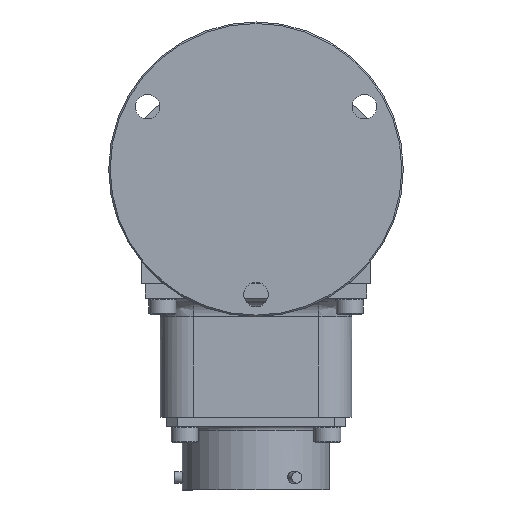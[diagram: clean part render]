
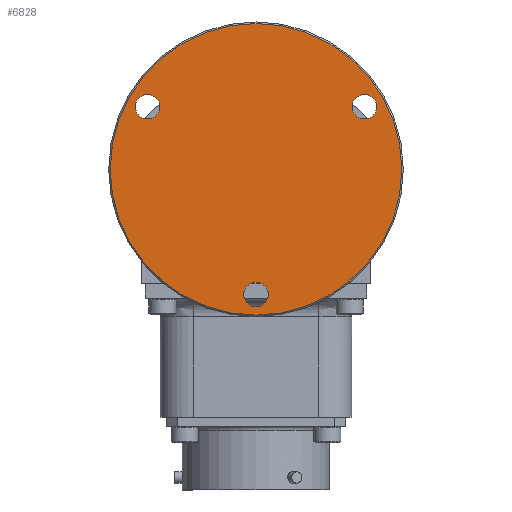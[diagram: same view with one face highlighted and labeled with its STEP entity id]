
A CAD part, front view. The second image highlights one B-rep face of the part: STEP entity #6828.
In plain terms, the highlighted planar face has unit normal (0, -1, 0).
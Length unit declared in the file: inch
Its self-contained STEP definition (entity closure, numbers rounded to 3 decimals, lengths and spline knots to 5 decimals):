
#42 = FACE_BOUND ( 'NONE', #9958, .T. ) ;
#227 = CIRCLE ( 'NONE', #5821, 0.083 ) ;
#612 = AXIS2_PLACEMENT_3D ( 'NONE', #6187, #954, #13796 ) ;
#669 = CARTESIAN_POINT ( 'NONE',  ( 0., 0.003, -0.85 ) ) ;
#726 = FACE_BOUND ( 'NONE', #3124, .T. ) ;
#871 = EDGE_CURVE ( 'NONE', #11244, #3067, #227, .T. ) ;
#954 = DIRECTION ( 'NONE',  ( 0., 1., 0. ) ) ;
#1266 = ORIENTED_EDGE ( 'NONE', *, *, #5265, .T. ) ;
#1434 = ORIENTED_EDGE ( 'NONE', *, *, #871, .T. ) ;
#1742 = CARTESIAN_POINT ( 'NONE',  ( 0., 0.003, -0.933 ) ) ;
#1810 = DIRECTION ( 'NONE',  ( 0., 0., 1. ) ) ;
#1860 = CIRCLE ( 'NONE', #8643, 0.083 ) ;
#1943 = DIRECTION ( 'NONE',  ( 0., 1., 0. ) ) ;
#2713 = DIRECTION ( 'NONE',  ( 0., 1., 0. ) ) ;
#3062 = ORIENTED_EDGE ( 'NONE', *, *, #7902, .T. ) ;
#3067 = VERTEX_POINT ( 'NONE', #1742 ) ;
#3124 = EDGE_LOOP ( 'NONE', ( #10372, #1266 ) ) ;
#3235 = DIRECTION ( 'NONE',  ( 0., 0., 1. ) ) ;
#3236 = CARTESIAN_POINT ( 'NONE',  ( 0., 0.003, 0.9895 ) ) ;
#3461 = DIRECTION ( 'NONE',  ( 0., 1., 0. ) ) ;
#3671 = DIRECTION ( 'NONE',  ( 0., 1., 0. ) ) ;
#3776 = DIRECTION ( 'NONE',  ( 0., 0., 1. ) ) ;
#4051 = VERTEX_POINT ( 'NONE', #10373 ) ;
#4395 = DIRECTION ( 'NONE',  ( 0., 0., 1. ) ) ;
#4429 = VERTEX_POINT ( 'NONE', #10267 ) ;
#4468 = AXIS2_PLACEMENT_3D ( 'NONE', #11136, #3671, #5767 ) ;
#4546 = DIRECTION ( 'NONE',  ( 0., 1., 0. ) ) ;
#5154 = CIRCLE ( 'NONE', #612, 0.083 ) ;
#5265 = EDGE_CURVE ( 'NONE', #4051, #9458, #8609, .T. ) ;
#5346 = DIRECTION ( 'NONE',  ( 0., -1., 0. ) ) ;
#5462 = CARTESIAN_POINT ( 'NONE',  ( 0., 0.003, -0.767 ) ) ;
#5583 = EDGE_LOOP ( 'NONE', ( #7737, #13678 ) ) ;
#5662 = CARTESIAN_POINT ( 'NONE',  ( 0., 0.003, -0.85 ) ) ;
#5676 = EDGE_CURVE ( 'NONE', #13746, #4429, #5154, .T. ) ;
#5767 = DIRECTION ( 'NONE',  ( 0., 0., 1. ) ) ;
#5821 = AXIS2_PLACEMENT_3D ( 'NONE', #5662, #3461, #7809 ) ;
#6008 = CIRCLE ( 'NONE', #13819, 0.083 ) ;
#6187 = CARTESIAN_POINT ( 'NONE',  ( 0.73612, 0.003, 0.425 ) ) ;
#6661 = CARTESIAN_POINT ( 'NONE',  ( 0.73612, 0.003, 0.425 ) ) ;
#6681 = CIRCLE ( 'NONE', #12113, 0.9895 ) ;
#6828 = ADVANCED_FACE ( 'NONE', ( #726, #11381, #42, #7541 ), #7243, .T. ) ;
#7129 = AXIS2_PLACEMENT_3D ( 'NONE', #9268, #12447, #11318 ) ;
#7243 = PLANE ( 'NONE',  #8253 ) ;
#7353 = CARTESIAN_POINT ( 'NONE',  ( 0., 0.003, 0. ) ) ;
#7369 = CIRCLE ( 'NONE', #7129, 0.9895 ) ;
#7541 = FACE_OUTER_BOUND ( 'NONE', #11789, .T. ) ;
#7737 = ORIENTED_EDGE ( 'NONE', *, *, #5676, .T. ) ;
#7809 = DIRECTION ( 'NONE',  ( 0., 0., 1. ) ) ;
#7894 = CARTESIAN_POINT ( 'NONE',  ( -0.73612, 0.003, 0.425 ) ) ;
#7902 = EDGE_CURVE ( 'NONE', #13088, #12048, #7369, .T. ) ;
#8047 = EDGE_CURVE ( 'NONE', #4429, #13746, #8872, .T. ) ;
#8253 = AXIS2_PLACEMENT_3D ( 'NONE', #12564, #11531, #12474 ) ;
#8609 = CIRCLE ( 'NONE', #4468, 0.083 ) ;
#8643 = AXIS2_PLACEMENT_3D ( 'NONE', #7894, #2713, #3776 ) ;
#8872 = CIRCLE ( 'NONE', #12206, 0.083 ) ;
#9268 = CARTESIAN_POINT ( 'NONE',  ( 0., 0.003, 0. ) ) ;
#9458 = VERTEX_POINT ( 'NONE', #12571 ) ;
#9590 = CARTESIAN_POINT ( 'NONE',  ( 0.73612, 0.003, 0.508 ) ) ;
#9785 = EDGE_CURVE ( 'NONE', #9458, #4051, #1860, .T. ) ;
#9830 = ORIENTED_EDGE ( 'NONE', *, *, #10336, .T. ) ;
#9958 = EDGE_LOOP ( 'NONE', ( #1434, #9830 ) ) ;
#10267 = CARTESIAN_POINT ( 'NONE',  ( 0.73612, 0.003, 0.342 ) ) ;
#10293 = CARTESIAN_POINT ( 'NONE',  ( 0., 0.003, -0.9895 ) ) ;
#10336 = EDGE_CURVE ( 'NONE', #3067, #11244, #6008, .T. ) ;
#10372 = ORIENTED_EDGE ( 'NONE', *, *, #9785, .T. ) ;
#10373 = CARTESIAN_POINT ( 'NONE',  ( -0.73612, 0.003, 0.342 ) ) ;
#11136 = CARTESIAN_POINT ( 'NONE',  ( -0.73612, 0.003, 0.425 ) ) ;
#11244 = VERTEX_POINT ( 'NONE', #5462 ) ;
#11318 = DIRECTION ( 'NONE',  ( 0., 0., 1. ) ) ;
#11381 = FACE_BOUND ( 'NONE', #5583, .T. ) ;
#11531 = DIRECTION ( 'NONE',  ( 0., -1., 0. ) ) ;
#11789 = EDGE_LOOP ( 'NONE', ( #3062, #11912 ) ) ;
#11912 = ORIENTED_EDGE ( 'NONE', *, *, #13757, .T. ) ;
#12048 = VERTEX_POINT ( 'NONE', #10293 ) ;
#12113 = AXIS2_PLACEMENT_3D ( 'NONE', #7353, #5346, #3235 ) ;
#12206 = AXIS2_PLACEMENT_3D ( 'NONE', #6661, #4546, #4395 ) ;
#12447 = DIRECTION ( 'NONE',  ( 0., -1., 0. ) ) ;
#12474 = DIRECTION ( 'NONE',  ( 0., 0., -1. ) ) ;
#12564 = CARTESIAN_POINT ( 'NONE',  ( 0., 0.003, 0. ) ) ;
#12571 = CARTESIAN_POINT ( 'NONE',  ( -0.73612, 0.003, 0.508 ) ) ;
#13088 = VERTEX_POINT ( 'NONE', #3236 ) ;
#13678 = ORIENTED_EDGE ( 'NONE', *, *, #8047, .T. ) ;
#13746 = VERTEX_POINT ( 'NONE', #9590 ) ;
#13757 = EDGE_CURVE ( 'NONE', #12048, #13088, #6681, .T. ) ;
#13796 = DIRECTION ( 'NONE',  ( 0., 0., 1. ) ) ;
#13819 = AXIS2_PLACEMENT_3D ( 'NONE', #669, #1943, #1810 ) ;
